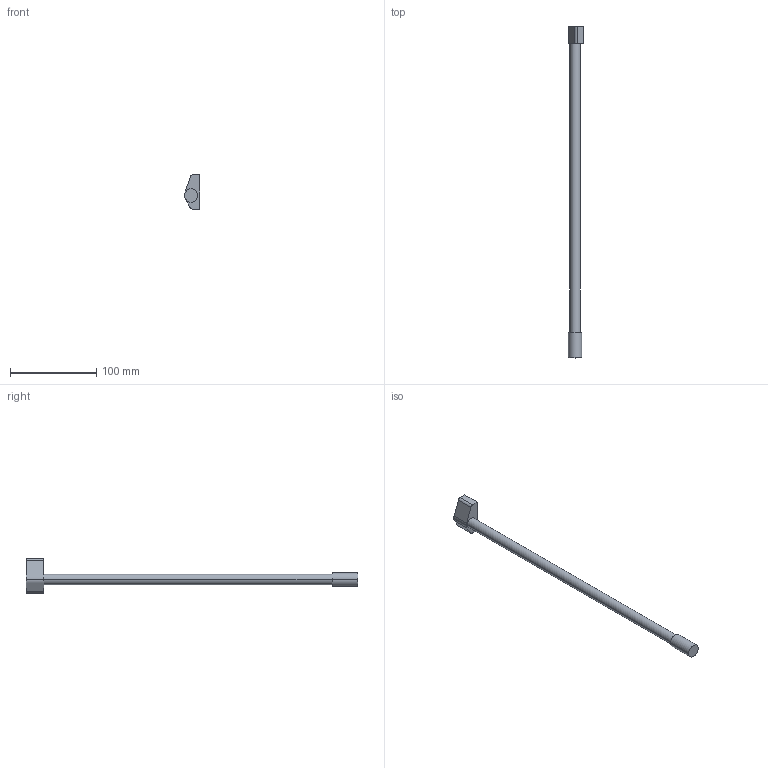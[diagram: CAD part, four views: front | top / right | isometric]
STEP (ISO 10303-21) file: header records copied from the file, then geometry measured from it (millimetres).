
FILE_DESCRIPTION (( 'STEP AP214' ), '1' );
FILE_NAME ('DWD-XP-Quickreling _NL-400_links.step', '2010-09-27T06:30:41', ( 'grass' ), ( '' ), 'SwSTEP 2.0', 'SolidWorks 2010', '' );
FILE_SCHEMA (( 'AUTOMOTIVE_DESIGN' ));
Length unit declared in the file: millimetre
Products named in the file (1): DWD-XP-Quickreling _NL-400_links
Bounding box: 18 x 384.3 x 40.1 mm (x, y, z)
Volume: 55014.1 mm3; surface area: 17422 mm2
Topology: 1 solids, 1 shells, 17 faces, 39 edges, 26 vertices
Faces by surface type: plane 9, cylinder 8
Entity records: 523 total; most frequent: DIRECTION 91, CARTESIAN_POINT 83, ORIENTED_EDGE 78, EDGE_CURVE 39, AXIS2_PLACEMENT_3D 34, VERTEX_POINT 26, VECTOR 23, LINE 23
